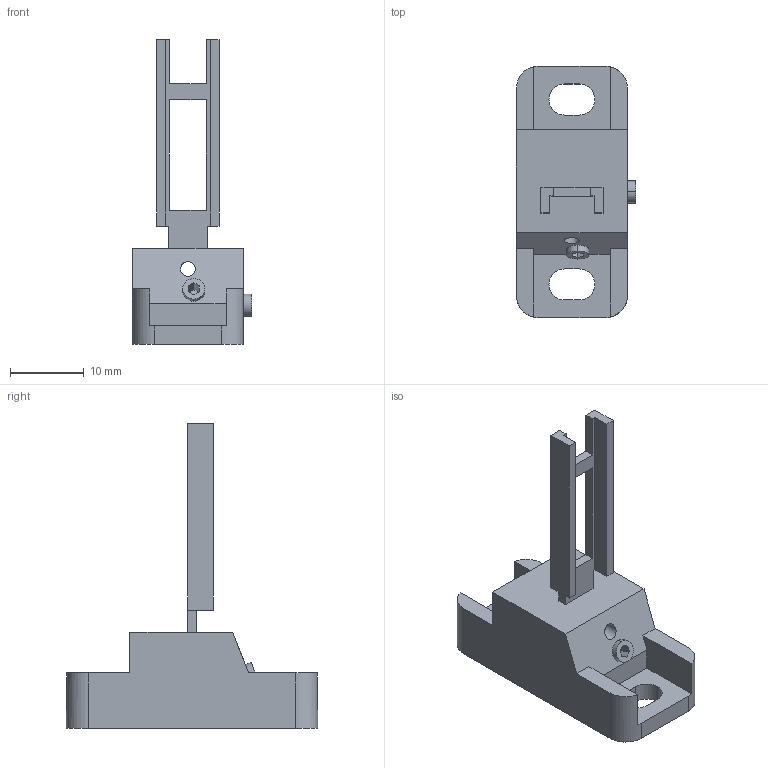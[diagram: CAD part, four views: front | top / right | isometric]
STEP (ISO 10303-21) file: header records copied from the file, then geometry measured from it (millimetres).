
FILE_DESCRIPTION (( 'STEP AP203' ), '1' );
FILE_NAME ('sg-k13.STEP', '2013-11-28T08:51:16', ( ' ' ), ( ' ' ), 'SwSTEP 2.0', 'SolidWorks 2010', '' );
FILE_SCHEMA (( 'CONFIG_CONTROL_DESIGN' ));
Length unit declared in the file: millimetre
Products named in the file (3): m3_hexagon socket setscrew; sg-k13_base; sg-k13
Assembly tree (3 placements, depth 2):
  sg-k13
    sg-k13_base
    m3_hexagon socket setscrew  x2
Bounding box: 16.1 x 34 x 41.2 mm (x, y, z)
Volume: 4226.2 mm3; surface area: 3123 mm2
Topology: 3 solids, 3 shells, 84 faces, 219 edges, 146 vertices
Faces by surface type: plane 64, cylinder 20
Entity records: 2620 total; most frequent: CARTESIAN_POINT 410, ORIENTED_EDGE 390, DIRECTION 389, EDGE_CURVE 195, LINE 155, VECTOR 155, VERTEX_POINT 130, AXIS2_PLACEMENT_3D 117
